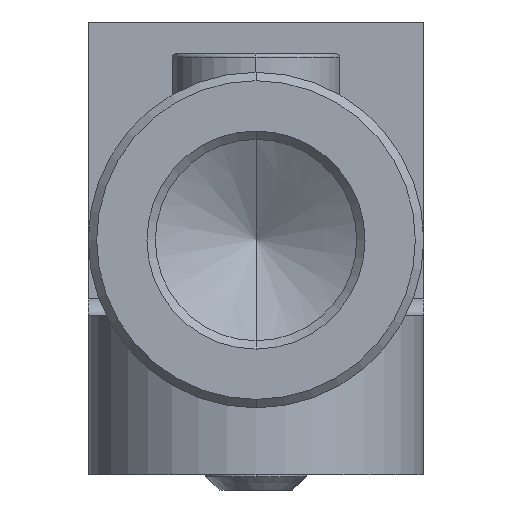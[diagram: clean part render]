
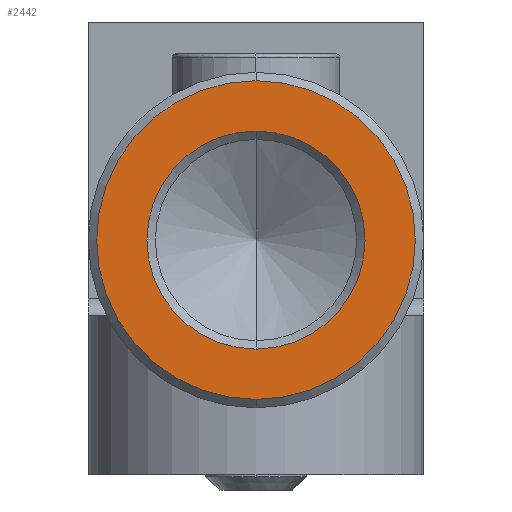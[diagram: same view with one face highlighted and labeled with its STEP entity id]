
A CAD part, front view. The second image highlights one B-rep face of the part: STEP entity #2442.
In plain terms, the highlighted planar face has unit normal (0, -1, 0).
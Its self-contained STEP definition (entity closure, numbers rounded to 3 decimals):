
#145 = CARTESIAN_POINT ( 'NONE',  ( -19.228, -144.719, 27.592 ) ) ;
#354 = VERTEX_POINT ( 'NONE', #3092 ) ;
#526 = DIRECTION ( 'NONE',  ( 0., 1., 0. ) ) ;
#616 = FACE_OUTER_BOUND ( 'NONE', #10537, .T. ) ;
#700 = DIRECTION ( 'NONE',  ( 0., -1., 0. ) ) ;
#744 = DIRECTION ( 'NONE',  ( 0., 0., -1. ) ) ;
#844 = EDGE_CURVE ( 'NONE', #9476, #354, #1355, .T. ) ;
#885 = FACE_BOUND ( 'NONE', #5834, .T. ) ;
#1333 = ORIENTED_EDGE ( 'NONE', *, *, #8301, .T. ) ;
#1355 = CIRCLE ( 'NONE', #2179, 6.5 ) ;
#1592 = CARTESIAN_POINT ( 'NONE',  ( -19.228, -144.719, 34.092 ) ) ;
#1611 = DIRECTION ( 'NONE',  ( 0., 0., 1. ) ) ;
#1730 = DIRECTION ( 'NONE',  ( 0., -1., 0. ) ) ;
#1763 = CARTESIAN_POINT ( 'NONE',  ( -19.228, -144.719, 27.592 ) ) ;
#2179 = AXIS2_PLACEMENT_3D ( 'NONE', #145, #526, #744 ) ;
#2442 = ADVANCED_FACE ( 'NONE', ( #885, #616 ), #2546, .T. ) ;
#2546 = PLANE ( 'NONE',  #4775 ) ;
#3092 = CARTESIAN_POINT ( 'NONE',  ( -19.228, -144.719, 21.092 ) ) ;
#3246 = CIRCLE ( 'NONE', #9522, 6.5 ) ;
#3324 = DIRECTION ( 'NONE',  ( 0., 0., -1. ) ) ;
#3333 = EDGE_CURVE ( 'NONE', #354, #9476, #3246, .T. ) ;
#4225 = CARTESIAN_POINT ( 'NONE',  ( -19.228, -144.719, 37.092 ) ) ;
#4775 = AXIS2_PLACEMENT_3D ( 'NONE', #7600, #6619, #3324 ) ;
#5073 = CIRCLE ( 'NONE', #10160, 9.5 ) ;
#5620 = CARTESIAN_POINT ( 'NONE',  ( -19.228, -144.719, 27.592 ) ) ;
#5739 = EDGE_CURVE ( 'NONE', #9595, #9010, #9745, .T. ) ;
#5819 = CARTESIAN_POINT ( 'NONE',  ( -19.228, -144.719, 18.092 ) ) ;
#5834 = EDGE_LOOP ( 'NONE', ( #5859, #9637 ) ) ;
#5859 = ORIENTED_EDGE ( 'NONE', *, *, #3333, .T. ) ;
#6459 = ORIENTED_EDGE ( 'NONE', *, *, #5739, .T. ) ;
#6464 = DIRECTION ( 'NONE',  ( 0., 0., 1. ) ) ;
#6619 = DIRECTION ( 'NONE',  ( 0., -1., 0. ) ) ;
#7505 = CARTESIAN_POINT ( 'NONE',  ( -19.228, -144.719, 27.592 ) ) ;
#7536 = DIRECTION ( 'NONE',  ( 0., 1., 0. ) ) ;
#7585 = DIRECTION ( 'NONE',  ( 0., 0., -1. ) ) ;
#7600 = CARTESIAN_POINT ( 'NONE',  ( -28.842, -144.719, 37.206 ) ) ;
#8301 = EDGE_CURVE ( 'NONE', #9010, #9595, #5073, .T. ) ;
#8657 = AXIS2_PLACEMENT_3D ( 'NONE', #1763, #1730, #1611 ) ;
#9010 = VERTEX_POINT ( 'NONE', #5819 ) ;
#9476 = VERTEX_POINT ( 'NONE', #1592 ) ;
#9522 = AXIS2_PLACEMENT_3D ( 'NONE', #7505, #7536, #7585 ) ;
#9595 = VERTEX_POINT ( 'NONE', #4225 ) ;
#9637 = ORIENTED_EDGE ( 'NONE', *, *, #844, .T. ) ;
#9745 = CIRCLE ( 'NONE', #8657, 9.5 ) ;
#10160 = AXIS2_PLACEMENT_3D ( 'NONE', #5620, #700, #6464 ) ;
#10537 = EDGE_LOOP ( 'NONE', ( #6459, #1333 ) ) ;
